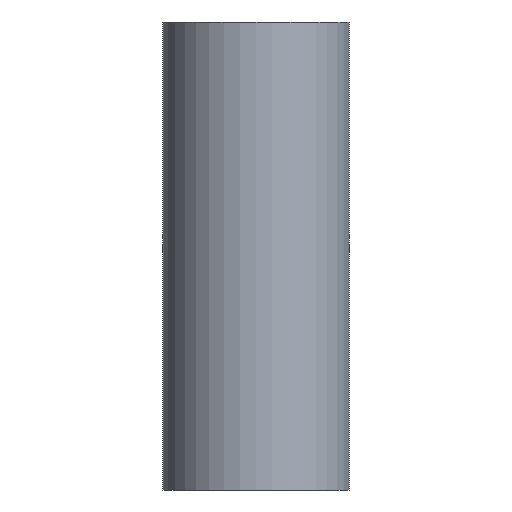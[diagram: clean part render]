
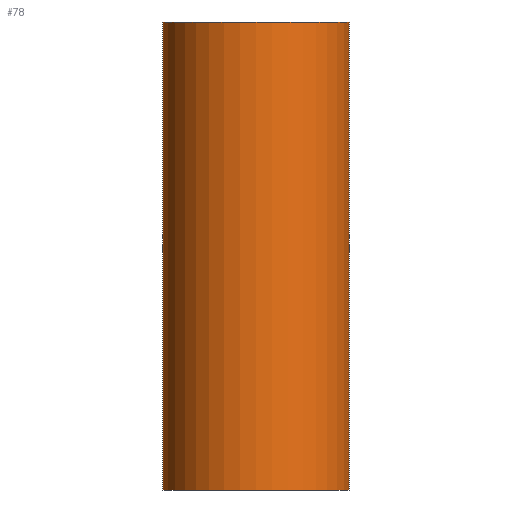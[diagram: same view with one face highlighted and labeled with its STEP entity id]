
A CAD part, front view. The second image highlights one B-rep face of the part: STEP entity #78.
In plain terms, the highlighted cylindrical face has radius 19.9 mm (diameter 39.8 mm), a partial arc.
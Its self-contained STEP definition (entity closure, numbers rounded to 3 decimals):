
#48 = EDGE_CURVE ( 'NONE', #56, #50, #392, .T. ) ;
#50 = VERTEX_POINT ( 'NONE', #383 ) ;
#54 = EDGE_CURVE ( 'NONE', #57, #55, #382, .T. ) ;
#55 = VERTEX_POINT ( 'NONE', #378 ) ;
#56 = VERTEX_POINT ( 'NONE', #377 ) ;
#57 = VERTEX_POINT ( 'NONE', #376 ) ;
#69 = EDGE_LOOP ( 'NONE', ( #70, #71, #72, #73 ) ) ;
#70 = ORIENTED_EDGE ( 'NONE', *, *, #54, .F. ) ;
#71 = ORIENTED_EDGE ( 'NONE', *, *, #195, .T. ) ;
#72 = ORIENTED_EDGE ( 'NONE', *, *, #48, .T. ) ;
#73 = ORIENTED_EDGE ( 'NONE', *, *, #74, .F. ) ;
#74 = EDGE_CURVE ( 'NONE', #55, #50, #321, .T. ) ;
#78 = ADVANCED_FACE ( 'NONE', ( #308 ), #307, .T. ) ;
#195 = EDGE_CURVE ( 'NONE', #57, #56, #296, .T. ) ;
#292 = DIRECTION ( 'NONE',  ( 1., 0., 0. ) ) ;
#293 = DIRECTION ( 'NONE',  ( 0., 0., 1. ) ) ;
#294 = CARTESIAN_POINT ( 'NONE',  ( 0., 0., -100. ) ) ;
#295 = AXIS2_PLACEMENT_3D ( 'NONE', #294, #293, #292 ) ;
#296 = CIRCLE ( 'NONE', #295, 19.9 ) ;
#305 = DIRECTION ( 'NONE',  ( 0., 0., 1. ) ) ;
#306 = AXIS2_PLACEMENT_3D ( 'NONE', #312, #305, #366 ) ;
#307 = CYLINDRICAL_SURFACE ( 'NONE', #306, 19.9 ) ;
#308 = FACE_OUTER_BOUND ( 'NONE', #69, .T. ) ;
#312 = CARTESIAN_POINT ( 'NONE',  ( 0., 0., 0. ) ) ;
#317 = DIRECTION ( 'NONE',  ( 1., 0., 0. ) ) ;
#318 = DIRECTION ( 'NONE',  ( 0., 0., 1. ) ) ;
#319 = CARTESIAN_POINT ( 'NONE',  ( 0., 0., 0. ) ) ;
#320 = AXIS2_PLACEMENT_3D ( 'NONE', #319, #318, #317 ) ;
#321 = CIRCLE ( 'NONE', #320, 19.9 ) ;
#366 = DIRECTION ( 'NONE',  ( 1., 0., 0. ) ) ;
#376 = CARTESIAN_POINT ( 'NONE',  ( -19.9, 0., -100. ) ) ;
#377 = CARTESIAN_POINT ( 'NONE',  ( 19.9, 0., -100. ) ) ;
#378 = CARTESIAN_POINT ( 'NONE',  ( -19.9, 0., 0. ) ) ;
#379 = DIRECTION ( 'NONE',  ( 0., 0., 1. ) ) ;
#380 = VECTOR ( 'NONE', #379, 1000. ) ;
#381 = CARTESIAN_POINT ( 'NONE',  ( -19.9, 0., 0. ) ) ;
#382 = LINE ( 'NONE', #381, #380 ) ;
#383 = CARTESIAN_POINT ( 'NONE',  ( 19.9, 0., 0. ) ) ;
#389 = DIRECTION ( 'NONE',  ( 0., 0., 1. ) ) ;
#390 = VECTOR ( 'NONE', #389, 1000. ) ;
#391 = CARTESIAN_POINT ( 'NONE',  ( 19.9, 0., 0. ) ) ;
#392 = LINE ( 'NONE', #391, #390 ) ;
